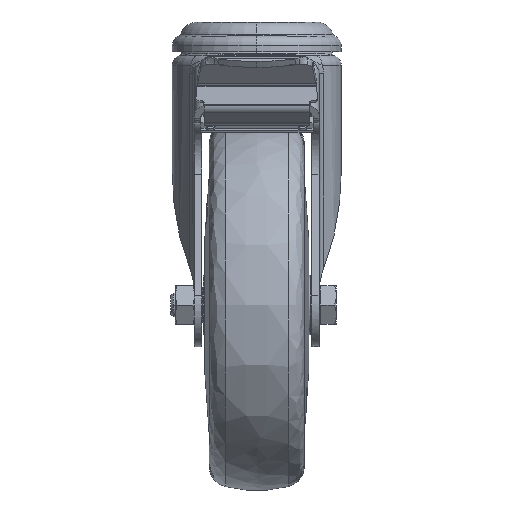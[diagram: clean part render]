
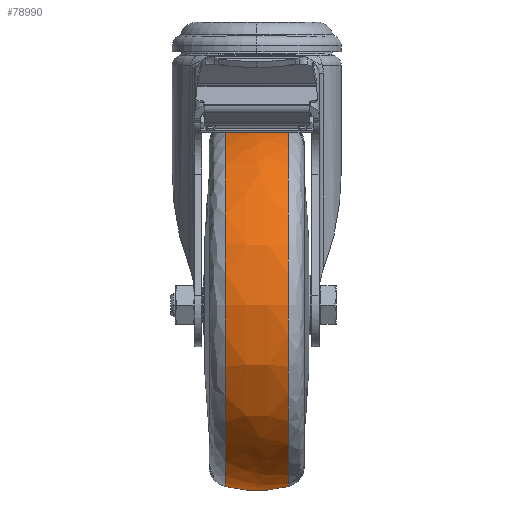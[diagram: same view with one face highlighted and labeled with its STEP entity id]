
A CAD part, top view. The second image highlights one B-rep face of the part: STEP entity #78990.
In plain terms, the highlighted free-form (B-spline) face has degree [3, 3] with [4, 4] control points.
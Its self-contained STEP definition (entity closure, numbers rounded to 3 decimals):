
#380 = CARTESIAN_POINT ( 'NONE',  ( 0., -78., 40. ) ) ;
#1616 = AXIS2_PLACEMENT_3D ( 'NONE', #71407, #32851, #77884 ) ;
#3449 = CARTESIAN_POINT ( 'NONE',  ( 10.658, -156.72, 40. ) ) ;
#3668 = CARTESIAN_POINT ( 'NONE',  ( 10.658, -95.5, 40. ) ) ;
#6406 = ORIENTED_EDGE ( 'NONE', *, *, #51795, .T. ) ;
#6861 = DIRECTION ( 'NONE',  ( 0., 1., 0. ) ) ;
#9364 = EDGE_CURVE ( 'NONE', #55831, #24486, #79933, .T. ) ;
#9670 = CARTESIAN_POINT ( 'NONE',  ( -10.658, -156.72, 162.439 ) ) ;
#9947 = CARTESIAN_POINT ( 'NONE',  ( 10.658, -34.28, 162.439 ) ) ;
#10170 = DIRECTION ( 'NONE',  ( 0., -1., 0. ) ) ;
#14556 = CARTESIAN_POINT ( 'NONE',  ( 0., -113., 40. ) ) ;
#16156 = CARTESIAN_POINT ( 'NONE',  ( -10.658, -34.28, 40. ) ) ;
#20502 = VERTEX_POINT ( 'NONE', #70075 ) ;
#21048 = DIRECTION ( 'NONE',  ( 0., -1., 0. ) ) ;
#22648 = CARTESIAN_POINT ( 'NONE',  ( -3.621, -158.435, 165.87 ) ) ;
#24486 = VERTEX_POINT ( 'NONE', #78612 ) ;
#29140 = CARTESIAN_POINT ( 'NONE',  ( -3.621, -32.565, 40. ) ) ;
#29203 = VERTEX_POINT ( 'NONE', #62643 ) ;
#29434 = EDGE_LOOP ( 'NONE', ( #41241, #58582, #37176, #6406 ) ) ;
#32851 = DIRECTION ( 'NONE',  ( 1., 0., 0. ) ) ;
#35226 = AXIS2_PLACEMENT_3D ( 'NONE', #14556, #59590, #21048 ) ;
#35543 = CARTESIAN_POINT ( 'NONE',  ( 3.621, -158.435, 165.87 ) ) ;
#37176 = ORIENTED_EDGE ( 'NONE', *, *, #51234, .T. ) ;
#38466 = AXIS2_PLACEMENT_3D ( 'NONE', #380, #45407, #6861 ) ;
#41241 = ORIENTED_EDGE ( 'NONE', *, *, #50350, .F. ) ;
#42011 = CARTESIAN_POINT ( 'NONE',  ( 3.621, -32.565, 40. ) ) ;
#45407 = DIRECTION ( 'NONE',  ( 0., 0., -1. ) ) ;
#48500 = CARTESIAN_POINT ( 'NONE',  ( 10.658, -156.72, 162.439 ) ) ;
#48709 = DIRECTION ( 'NONE',  ( -1., 0., 0. ) ) ;
#49978 = CIRCLE ( 'NONE', #35226, 45. ) ;
#50058 = CIRCLE ( 'NONE', #38466, 45. ) ;
#50350 = EDGE_CURVE ( 'NONE', #55831, #29203, #50058, .T. ) ;
#51234 = EDGE_CURVE ( 'NONE', #24486, #20502, #49978, .T. ) ;
#51795 = EDGE_CURVE ( 'NONE', #20502, #29203, #79155, .T. ) ;
#54682 = CARTESIAN_POINT ( 'NONE',  ( -10.658, -34.28, 162.439 ) ) ;
#54954 = CARTESIAN_POINT ( 'NONE',  ( 10.658, -34.28, 40. ) ) ;
#55831 = VERTEX_POINT ( 'NONE', #79518 ) ;
#58582 = ORIENTED_EDGE ( 'NONE', *, *, #9364, .T. ) ;
#59590 = DIRECTION ( 'NONE',  ( 0., 0., 1. ) ) ;
#61171 = CARTESIAN_POINT ( 'NONE',  ( -3.621, -158.435, 40. ) ) ;
#62643 = CARTESIAN_POINT ( 'NONE',  ( 10.658, -34.28, 40. ) ) ;
#63861 = AXIS2_PLACEMENT_3D ( 'NONE', #3668, #48709, #10170 ) ;
#64988 = FACE_OUTER_BOUND ( 'NONE', #29434, .T. ) ;
#67057 = CARTESIAN_POINT ( 'NONE',  ( -10.658, -156.72, 40. ) ) ;
#67634 = CARTESIAN_POINT ( 'NONE',  ( -3.621, -32.565, 165.87 ) ) ;
#70075 = CARTESIAN_POINT ( 'NONE',  ( 10.658, -156.72, 40. ) ) ;
#71407 = CARTESIAN_POINT ( 'NONE',  ( -10.658, -95.5, 40. ) ) ;
#74118 = CARTESIAN_POINT ( 'NONE',  ( 3.621, -158.435, 40. ) ) ;
#77884 = DIRECTION ( 'NONE',  ( 0., -1., 0. ) ) ;
#78612 = CARTESIAN_POINT ( 'NONE',  ( -10.658, -156.72, 40. ) ) ;
#78990 = ADVANCED_FACE ( 'NONE', ( #64988 ), #83635, .T. ) ;
#79155 = CIRCLE ( 'NONE', #63861, 61.22 ) ;
#79518 = CARTESIAN_POINT ( 'NONE',  ( -10.658, -34.28, 40. ) ) ;
#79933 = CIRCLE ( 'NONE', #1616, 61.22 ) ;
#80602 = CARTESIAN_POINT ( 'NONE',  ( 3.621, -32.565, 165.87 ) ) ;
#83635 =( BOUNDED_SURFACE ( )  B_SPLINE_SURFACE ( 3, 3, ( 
 ( #67057, #9670, #54682, #16156 ),
 ( #61171, #22648, #67634, #29140 ),
 ( #74118, #35543, #80602, #42011 ),
 ( #3449, #48500, #9947, #54954 ) ),
 .UNSPECIFIED., .F., .F., .F. ) 
 B_SPLINE_SURFACE_WITH_KNOTS ( ( 4, 4 ),
 ( 4, 4 ),
 ( 0., 1. ),
 ( 0., 1. ),
 .UNSPECIFIED. ) 
 GEOMETRIC_REPRESENTATION_ITEM ( )  RATIONAL_B_SPLINE_SURFACE ( (
 ( 1., 0.333, 0.333, 1.),
 ( 0.981, 0.327, 0.327, 0.981),
 ( 0.981, 0.327, 0.327, 0.981),
 ( 1., 0.333, 0.333, 1.) ) ) 
 REPRESENTATION_ITEM ( '' )  SURFACE ( )  );
